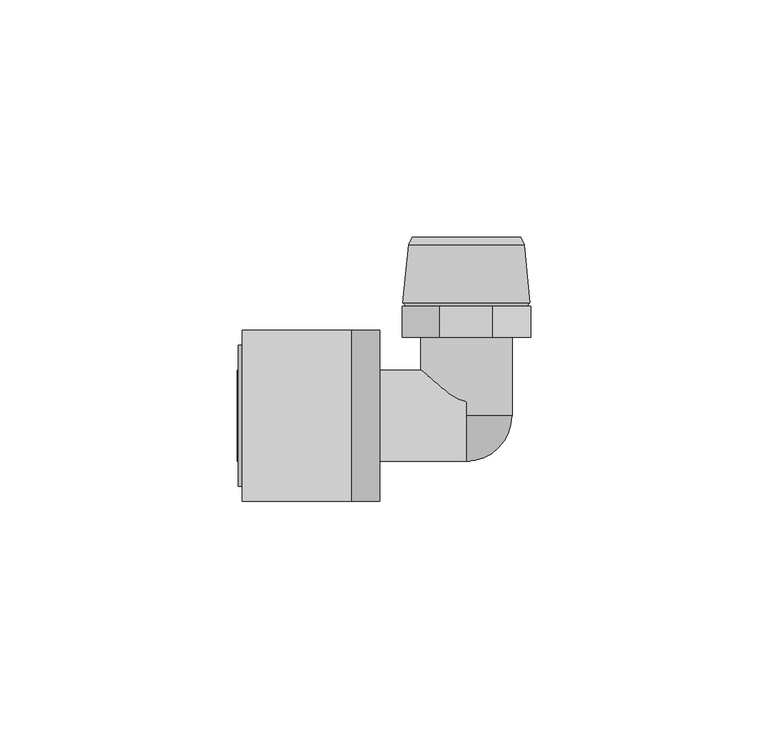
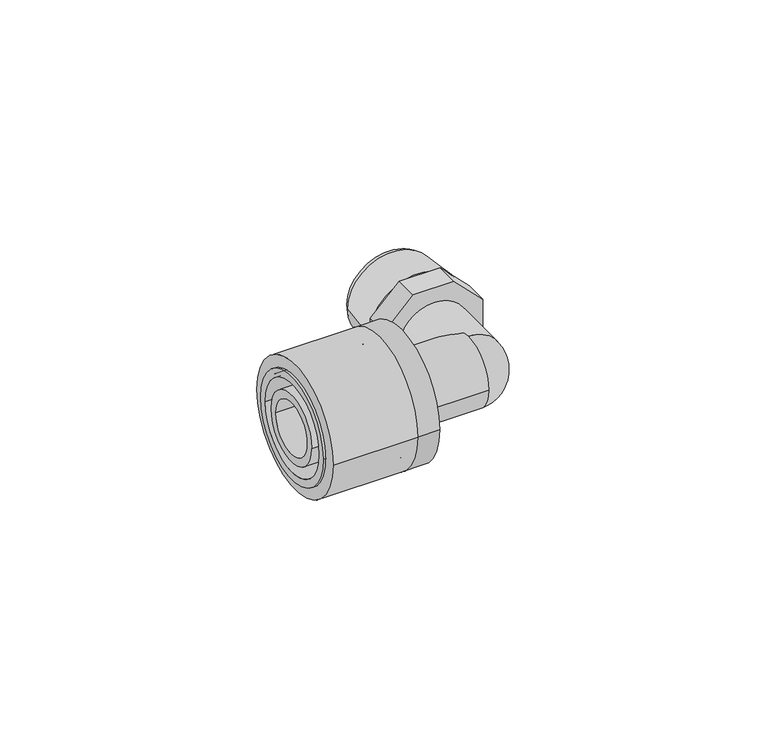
"""IFC4 building model written with IfcOpenShell, lengths in millimetres: pipe fitting geometry, FASTLOC_Elbow with male thread LX : FSL A internal CZ."""

from ifc_helpers import new_model, si_unit, point, frame, origin, origin_2d, place, context, project, spatial, polyline, circle_curve, ellipse_curve, trimmed, segment, composite_curve, outline, extrude, source, transform, mapped, element, save
from ifc_brep_helpers import plane_surface, cylinder_surface, revolved_surface, advanced_brep


def pipe_fitting_b873231b(model_context):
    return source(origin(), model_context, "Body", "SolidModel", [
        extrude(outline(composite_curve([segment(trimmed(circle_curve(origin_2d(), 18.0), [point((18.0, 0.0))], [point((-18.0, 0.0))], False, "CARTESIAN"), True, "CONTINUOUS"), segment(trimmed(circle_curve(origin_2d(), 18.0), [point((-18.0, 0.0))], [point((18.0, 0.0))], False, "CARTESIAN"), True, "CONTINUOUS")], self_intersect=False), holes=[composite_curve([segment(trimmed(circle_curve(origin_2d(), 13.5), [point((13.5, 0.0))], [point((-13.5, 0.0))], True, "CARTESIAN"), True, "CONTINUOUS"), segment(trimmed(circle_curve(origin_2d(), 13.5), [point((-13.5, 0.0))], [point((13.5, 0.0))], True, "CARTESIAN"), True, "CONTINUOUS")], self_intersect=False)]), frame((-47.2, 0.0, 0.0), z_axis=(1.0, 0.0, 0.0), x_axis=(0.0, 1.0, 0.0)), (0.0, 0.0, 1.0), 23.0),
        advanced_brep(
        [(-24.2, -18.0, 0.0), (-24.2, 18.0, 0.0), (-18.2, 18.0, 0.0), (-18.2, -18.0, 0.0), (-48.0, -14.85, 0.0), (-48.0, 14.85, 0.0), (-24.2, 14.85, 0.0), (-24.2, -14.85, 0.0), (-18.2, -12.65, 0.0), (-18.2, 12.65, 0.0), (-48.0, 12.65, 0.0), (-48.0, -12.65, 0.0)],
        [
            (0, 1, circle_curve(frame((-24.2, 0.0, 0.0), z_axis=(1.0, 0.0, 0.0), x_axis=(0.0, 1.0, 0.0)), 18.0)),
            (1, 2),
            (2, 3, circle_curve(frame((-18.2, 0.0, 0.0), z_axis=(-1.0, 0.0, 0.0), x_axis=(0.0, 1.0, 0.0)), 18.0)),
            (3, 0),
            (4, 5, circle_curve(frame((-48.0, 0.0, 0.0), z_axis=(1.0, 0.0, 0.0), x_axis=(0.0, 1.0, 0.0)), 14.85)),
            (5, 6),
            (6, 7, circle_curve(frame((-24.2, 0.0, 0.0), z_axis=(-1.0, 0.0, 0.0), x_axis=(0.0, 1.0, 0.0)), 14.85)),
            (7, 4),
            (8, 9, circle_curve(frame((-18.2, 0.0, 0.0), z_axis=(1.0, 0.0, 0.0), x_axis=(0.0, 1.0, 0.0)), 12.65)),
            (9, 10),
            (10, 11, circle_curve(frame((-48.0, 0.0, 0.0), z_axis=(-1.0, 0.0, 0.0), x_axis=(0.0, 1.0, 0.0)), 12.65)),
            (11, 8),
            (1, 0, circle_curve(frame((-24.2, 0.0, 0.0), z_axis=(1.0, 0.0, 0.0), x_axis=(0.0, -1.0, 0.0)), 18.0)),
            (3, 2, circle_curve(frame((-18.2, 0.0, 0.0), z_axis=(-1.0, 0.0, 0.0), x_axis=(0.0, -1.0, 0.0)), 18.0)),
            (6, 7, circle_curve(frame((-24.2, 0.0, 0.0), z_axis=(1.0, 0.0, 0.0), x_axis=(0.0, -1.0, 0.0)), 14.85)),
            (5, 4, circle_curve(frame((-48.0, 0.0, 0.0), z_axis=(1.0, 0.0, 0.0), x_axis=(0.0, -1.0, 0.0)), 14.85)),
            (10, 11, circle_curve(frame((-48.0, 0.0, 0.0), z_axis=(1.0, 0.0, 0.0), x_axis=(0.0, -1.0, 0.0)), 12.65)),
            (9, 8, circle_curve(frame((-18.2, 0.0, 0.0), z_axis=(1.0, 0.0, 0.0), x_axis=(0.0, -1.0, 0.0)), 12.65)),
        ],
        [
            cylinder_surface(frame((-18.2, 0.0, 0.0), z_axis=(-1.0, 0.0, 0.0), x_axis=(0.0, 1.0, 0.0)), 18.0),
            cylinder_surface(frame((-18.2, 0.0, 0.0), z_axis=(-1.0, 0.0, 0.0), x_axis=(0.0, 1.0, 0.0)), 14.85),
            revolved_surface(polyline([(-48.0, 12.65, 0.0), (-18.2, 12.65, 0.0)]), (-18.2, 0.0, 0.0), (-1.0, 0.0, 0.0)),
            cylinder_surface(frame((-18.2, 0.0, 0.0), z_axis=(-1.0, 0.0, 0.0), x_axis=(0.0, -1.0, 0.0)), 18.0),
            plane_surface(frame((-24.2, 0.0, 0.0), z_axis=(-1.0, 0.0, 0.0), x_axis=(0.0, -1.0, 0.0))),
            cylinder_surface(frame((-18.2, 0.0, 0.0), z_axis=(-1.0, 0.0, 0.0), x_axis=(0.0, -1.0, 0.0)), 14.85),
            plane_surface(frame((-48.0, 0.0, 0.0), z_axis=(-1.0, 0.0, 0.0), x_axis=(0.0, -1.0, 0.0))),
            revolved_surface(polyline([(-48.0, -12.65, 0.0), (-18.2, -12.65, 0.0)]), (-18.2, 0.0, 0.0), (-1.0, 0.0, 0.0)),
            plane_surface(frame((-18.2, 0.0, 0.0), z_axis=(1.0, 0.0, 0.0), x_axis=(0.0, -1.0, 0.0))),
        ],
        [
            (0, [[1, 2, 3, 4]]),
            (1, [[5, 6, 7, 8]]),
            (2, [[9, 10, 11, 12]]),
            (3, [[13, -4, 14, -2]]),
            (4, [[-13, -1], [15, -7]]),
            (5, [[16, -8, -15, -6]]),
            (6, [[-16, -5], [17, -11]]),
            (7, [[18, -12, -17, -10]]),
            (8, [[-14, -3], [-18, -9]]),
        ],
    ),
        advanced_brep(
        [(-24.2, 9.6, 0.0), (-24.2, -9.6, 0.0), (-48.2, -9.6, 0.0), (-48.2, 9.6, 0.0), (-21.4, 11.1, 0.0), (-21.4, -11.1, 0.0), (-24.2, -11.1, 0.0), (-24.2, 11.1, 0.0), (0.0, 9.6, 0.0), (0.0, -9.6, 0.0), (-21.4, -9.6, 0.0), (-21.4, 9.6, 0.0), (-48.2, 7.35, 0.0), (-48.2, -7.35, 0.0), (0.0, -7.35, 0.0), (0.0, 7.35, 0.0)],
        [
            (0, 1, circle_curve(frame((-24.2, 0.0, 0.0), z_axis=(-1.0, 0.0, 0.0), x_axis=(0.0, -1.0, 0.0)), 9.6)),
            (1, 2),
            (2, 3, circle_curve(frame((-48.2, 0.0, 0.0), z_axis=(1.0, 0.0, 0.0), x_axis=(0.0, -1.0, 0.0)), 9.6)),
            (3, 0),
            (4, 5, circle_curve(frame((-21.4, 0.0, 0.0), z_axis=(-1.0, 0.0, 0.0), x_axis=(0.0, -1.0, 0.0)), 11.1)),
            (5, 6),
            (6, 7, circle_curve(frame((-24.2, 0.0, 0.0), z_axis=(1.0, 0.0, 0.0), x_axis=(0.0, -1.0, 0.0)), 11.1)),
            (7, 4),
            (8, 9, circle_curve(frame((0.0, 0.0, 0.0), z_axis=(-1.0, 0.0, 0.0), x_axis=(0.0, -1.0, 0.0)), 9.6)),
            (9, 10),
            (10, 11, circle_curve(frame((-21.4, 0.0, 0.0), z_axis=(1.0, 0.0, 0.0), x_axis=(0.0, -1.0, 0.0)), 9.6)),
            (11, 8),
            (12, 13, circle_curve(frame((-48.2, 0.0, 0.0), z_axis=(-1.0, 0.0, 0.0), x_axis=(0.0, -1.0, 0.0)), 7.35)),
            (13, 14),
            (14, 15, circle_curve(frame((0.0, 0.0, 0.0), z_axis=(1.0, 0.0, 0.0), x_axis=(0.0, -1.0, 0.0)), 7.35)),
            (15, 12),
            (2, 3, circle_curve(frame((-48.2, 0.0, 0.0), z_axis=(-1.0, 0.0, 0.0), x_axis=(0.0, 1.0, 0.0)), 9.6)),
            (12, 13, circle_curve(frame((-48.2, 0.0, 0.0), z_axis=(1.0, 0.0, 0.0), x_axis=(0.0, 1.0, 0.0)), 7.35)),
            (1, 0, circle_curve(frame((-24.2, 0.0, 0.0), z_axis=(-1.0, 0.0, 0.0), x_axis=(0.0, 1.0, 0.0)), 9.6)),
            (6, 7, circle_curve(frame((-24.2, 0.0, 0.0), z_axis=(-1.0, 0.0, 0.0), x_axis=(0.0, 1.0, 0.0)), 11.1)),
            (5, 4, circle_curve(frame((-21.4, 0.0, 0.0), z_axis=(-1.0, 0.0, 0.0), x_axis=(0.0, 1.0, 0.0)), 11.1)),
            (10, 11, circle_curve(frame((-21.4, 0.0, 0.0), z_axis=(-1.0, 0.0, 0.0), x_axis=(0.0, 1.0, 0.0)), 9.6)),
            (9, 8, circle_curve(frame((0.0, 0.0, 0.0), z_axis=(-1.0, 0.0, 0.0), x_axis=(0.0, 1.0, 0.0)), 9.6)),
            (14, 15, circle_curve(frame((0.0, 0.0, 0.0), z_axis=(-1.0, 0.0, 0.0), x_axis=(0.0, 1.0, 0.0)), 7.35)),
        ],
        [
            cylinder_surface(frame((0.0, 0.0, 0.0), z_axis=(1.0, 0.0, 0.0), x_axis=(0.0, -1.0, 0.0)), 9.6),
            cylinder_surface(frame((0.0, 0.0, 0.0), z_axis=(1.0, 0.0, 0.0), x_axis=(0.0, -1.0, 0.0)), 11.1),
            revolved_surface(polyline([(0.0, -7.35, 0.0), (-48.2, -7.35, 0.0)]), (0.0, 0.0, 0.0), (1.0, 0.0, 0.0)),
            plane_surface(frame((-48.2, 0.0, 0.0), z_axis=(-1.0, 0.0, 0.0), x_axis=(0.0, 1.0, 0.0))),
            cylinder_surface(frame((0.0, 0.0, 0.0), z_axis=(1.0, 0.0, 0.0), x_axis=(0.0, 1.0, 0.0)), 9.6),
            plane_surface(frame((-24.2, 0.0, 0.0), z_axis=(-1.0, 0.0, 0.0), x_axis=(0.0, 1.0, 0.0))),
            cylinder_surface(frame((0.0, 0.0, 0.0), z_axis=(1.0, 0.0, 0.0), x_axis=(0.0, 1.0, 0.0)), 11.1),
            plane_surface(frame((-21.4, 0.0, 0.0), z_axis=(1.0, 0.0, 0.0), x_axis=(0.0, 1.0, 0.0))),
            plane_surface(frame((0.0, 0.0, 0.0), z_axis=(1.0, 0.0, 0.0), x_axis=(0.0, 1.0, 0.0))),
            revolved_surface(polyline([(0.0, 7.35, 0.0), (-48.2, 7.35, 0.0)]), (0.0, 0.0, 0.0), (1.0, 0.0, 0.0)),
        ],
        [
            (0, [[1, 2, 3, 4]]),
            (1, [[5, 6, 7, 8]]),
            (0, [[9, 10, 11, 12]]),
            (2, [[13, 14, 15, 16]]),
            (3, [[17, -3], [18, -13]]),
            (4, [[19, -4, -17, -2]]),
            (5, [[20, -7], [-19, -1]]),
            (6, [[21, -8, -20, -6]]),
            (7, [[-21, -5], [22, -11]]),
            (4, [[23, -12, -22, -10]]),
            (8, [[-23, -9], [24, -15]]),
            (9, [[-18, -16, -24, -14]]),
        ],
    ),
        advanced_brep(
        [(12.15, 36.0000007, 0.0), (-12.15, 36.0000007, 0.0), (-11.45, 37.5, 0.0), (11.45, 37.5, 0.0), (13.35, 23.7406902, 0.0), (-13.35, 23.7406902, 0.0), (12.7, 23.0, 0.0), (-12.7, 23.0, 0.0), (9.5, 24.1032803, 0.0), (-9.5, 24.1032803, 0.0), (-8.3967197, 23.0, 0.0), (8.3967197, 23.0, 0.0), (9.5, 37.5, 0.0), (-9.5, 37.5, 0.0)],
        [
            (0, 1, circle_curve(frame((0.0, 36.0000007, 0.0), z_axis=(0.0, 1.0, 0.0), x_axis=(-1.0, 0.0, 0.0)), 12.15)),
            (1, 2),
            (2, 3, circle_curve(frame((0.0, 37.5, 0.0), z_axis=(0.0, -1.0, 0.0), x_axis=(-1.0, 0.0, 0.0)), 11.45)),
            (3, 0),
            (4, 5, circle_curve(frame((0.0, 23.7406902, 0.0), z_axis=(0.0, 1.0, 0.0), x_axis=(-1.0, 0.0, 0.0)), 13.35)),
            (5, 1),
            (0, 4),
            (6, 7, circle_curve(frame((0.0, 23.0, 0.0), z_axis=(0.0, 1.0, 0.0), x_axis=(-1.0, 0.0, 0.0)), 12.7)),
            (7, 5),
            (4, 6),
            (8, 9, circle_curve(frame((0.0, 24.1032803, 0.0), z_axis=(0.0, 1.0, 0.0), x_axis=(-1.0, 0.0, 0.0)), 9.5)),
            (9, 10),
            (10, 11, circle_curve(frame((0.0, 23.0, 0.0), z_axis=(0.0, -1.0, 0.0), x_axis=(-1.0, 0.0, 0.0)), 8.3967197)),
            (11, 8),
            (12, 13, circle_curve(frame((0.0, 37.5, 0.0), z_axis=(0.0, 1.0, 0.0), x_axis=(-1.0, 0.0, 0.0)), 9.5)),
            (13, 9),
            (8, 12),
            (2, 3, circle_curve(frame((0.0, 37.5, 0.0), z_axis=(0.0, 1.0, 0.0), x_axis=(1.0, 0.0, 0.0)), 11.45)),
            (12, 13, circle_curve(frame((0.0, 37.5, 0.0), z_axis=(0.0, -1.0, 0.0), x_axis=(1.0, 0.0, 0.0)), 9.5)),
            (1, 0, circle_curve(frame((0.0, 36.0000007, 0.0), z_axis=(0.0, 1.0, 0.0), x_axis=(1.0, 0.0, 0.0)), 12.15)),
            (5, 4, circle_curve(frame((0.0, 23.7406902, 0.0), z_axis=(0.0, 1.0, 0.0), x_axis=(1.0, 0.0, 0.0)), 13.35)),
            (7, 6, circle_curve(frame((0.0, 23.0, 0.0), z_axis=(0.0, 1.0, 0.0), x_axis=(1.0, 0.0, 0.0)), 12.7)),
            (10, 11, circle_curve(frame((0.0, 23.0, 0.0), z_axis=(0.0, 1.0, 0.0), x_axis=(1.0, 0.0, 0.0)), 8.3967197)),
            (9, 8, circle_curve(frame((0.0, 24.1032803, 0.0), z_axis=(0.0, 1.0, 0.0), x_axis=(1.0, 0.0, 0.0)), 9.5)),
        ],
        [
            revolved_surface(polyline([(-11.45, 37.5, 0.0), (-12.15, 36.0000007, 0.0)]), (0.0, 16.5, 0.0), (0.0, -1.0, 0.0)),
            revolved_surface(polyline([(-12.15, 36.0000007, 0.0), (-13.35, 23.7406902, 0.0)]), (0.0, 16.5, 0.0), (0.0, -1.0, 0.0)),
            revolved_surface(polyline([(-13.35, 23.7406902, 0.0), (-12.7, 23.0, 0.0)]), (0.0, 16.5, 0.0), (0.0, -1.0, 0.0)),
            revolved_surface(polyline([(-8.3967197, 23.0, 0.0), (-9.5, 24.1032803, 0.0)]), (0.0, 16.5, 0.0), (0.0, -1.0, 0.0)),
            revolved_surface(polyline([(-9.5, 24.1032803, 0.0), (-9.5, 37.5, 0.0)]), (0.0, 16.5, 0.0), (0.0, -1.0, 0.0)),
            plane_surface(frame((0.0, 37.5, 0.0), z_axis=(0.0, 1.0, 0.0), x_axis=(1.0, 0.0, 0.0))),
            revolved_surface(polyline([(11.45, 37.5, 0.0), (12.15, 36.0000007, 0.0)]), (0.0, 16.5, 0.0), (0.0, -1.0, 0.0)),
            revolved_surface(polyline([(12.15, 36.0000007, 0.0), (13.35, 23.7406902, 0.0)]), (0.0, 16.5, 0.0), (0.0, -1.0, 0.0)),
            revolved_surface(polyline([(13.35, 23.7406902, 0.0), (12.7, 23.0, 0.0)]), (0.0, 16.5, 0.0), (0.0, -1.0, 0.0)),
            plane_surface(frame((0.0, 23.0, 0.0), z_axis=(0.0, -1.0, 0.0), x_axis=(1.0, 0.0, 0.0))),
            revolved_surface(polyline([(8.3967197, 23.0, 0.0), (9.5, 24.1032803, 0.0)]), (0.0, 16.5, 0.0), (0.0, -1.0, 0.0)),
            revolved_surface(polyline([(9.5, 24.1032803, 0.0), (9.5, 37.5, 0.0)]), (0.0, 16.5, 0.0), (0.0, -1.0, 0.0)),
        ],
        [
            (0, [[1, 2, 3, 4]]),
            (1, [[5, 6, -1, 7]]),
            (2, [[8, 9, -5, 10]]),
            (3, [[11, 12, 13, 14]]),
            (4, [[15, 16, -11, 17]]),
            (5, [[18, -3], [19, -15]]),
            (6, [[20, -4, -18, -2]]),
            (7, [[21, -7, -20, -6]]),
            (8, [[22, -10, -21, -9]]),
            (9, [[-22, -8], [23, -13]]),
            (10, [[24, -14, -23, -12]]),
            (11, [[-19, -17, -24, -16]]),
        ],
    ),
        advanced_brep(
        [(0.0, -9.6, 0.0), (0.0, 0.0, 9.6), (0.0, 0.0, 6.95), (0.0, -6.95, 0.0), (0.0, 0.0, -6.95), (0.0, 0.0, -9.6)],
        [
            (0, 1, circle_curve(frame((0.0, 0.0, 0.0), z_axis=(-1.0, 0.0, 0.0), x_axis=(0.0, 0.0, 1.0)), 9.6)),
            (1, 2),
            (2, 3, circle_curve(frame((0.0, 0.0, 0.0), z_axis=(1.0, 0.0, 0.0), x_axis=(0.0, 0.0, 1.0)), 6.95)),
            (3, 0),
            (3, 4, circle_curve(frame((0.0, 0.0, 0.0), z_axis=(1.0, 0.0, 0.0), x_axis=(0.0, 0.0, -1.0)), 6.95)),
            (4, 5),
            (5, 0, circle_curve(frame((0.0, 0.0, 0.0), z_axis=(-1.0, 0.0, 0.0), x_axis=(0.0, 0.0, -1.0)), 9.6)),
            (5, 1, circle_curve(frame((0.0, 0.0, 0.0), z_axis=(0.0, -1.0, 0.0), x_axis=(0.0, 0.0, 1.0)), 9.6)),
            (4, 2, circle_curve(frame((0.0, 0.0, 0.0), z_axis=(0.0, -1.0, 0.0), x_axis=(0.0, 0.0, 1.0)), 6.95)),
        ],
        [
            plane_surface(frame((0.0, 0.0, 0.0), z_axis=(-1.0, 0.0, 0.0), x_axis=(0.0, 0.0, 1.0))),
            plane_surface(frame((0.0, 0.0, 0.0), z_axis=(-1.0, 0.0, 0.0), x_axis=(0.0, 0.0, -1.0))),
            revolved_surface(trimmed(ellipse_curve(frame((0.0, 0.0, 0.0), z_axis=(-1.0, 0.0, 0.0), x_axis=(0.0, 0.0, 1.0)), 9.6, 9.6), [point((0.0, -9.6, 0.0))], [point((0.0, 0.0, 9.6))], True, "CARTESIAN"), (0.0, 0.0, 0.0), (0.0, 1.0, 0.0)),
            plane_surface(frame((0.0, 0.0, 0.0), z_axis=(0.0, 1.0, 0.0), x_axis=(0.0, 0.0, 1.0))),
            revolved_surface(trimmed(ellipse_curve(frame((0.0, 0.0, 0.0), z_axis=(1.0, 0.0, 0.0), x_axis=(0.0, 0.0, 1.0)), 6.95, 6.95), [point((0.0, 0.0, 6.95))], [point((0.0, -6.95, 0.0))], True, "CARTESIAN"), (0.0, 0.0, 0.0), (0.0, 1.0, 0.0)),
        ],
        [
            (0, [[1, 2, 3, 4]]),
            (1, [[5, 6, 7, -4]]),
            (2, [[8, -1, -7]]),
            (3, [[9, -2, -8, -6]]),
            (4, [[-3, -9, -5]]),
        ],
    ),
        extrude(outline(polyline([(-13.5, 5.5918831), (-5.5918831, 13.5), (5.5918831, 13.5), (13.5, 5.5918831), (13.5, -5.5918831), (5.5918831, -13.5), (-5.5918831, -13.5), (-13.5, -5.5918831), (-13.5, 5.5918831)])), frame((0.0, 16.5, 0.0), z_axis=(0.0, 1.0, 0.0), x_axis=(0.0, 0.0, 1.0)), (0.0, 0.0, 1.0), 6.5),
        extrude(outline(composite_curve([segment(trimmed(circle_curve(origin_2d(), 9.6), [point((0.0, -9.6))], [point((0.0, 9.6))], False, "CARTESIAN"), True, "CONTINUOUS"), segment(trimmed(circle_curve(origin_2d(), 9.6), [point((0.0, 9.6))], [point((0.0, -9.6))], False, "CARTESIAN"), True, "CONTINUOUS")], self_intersect=False), holes=[composite_curve([segment(trimmed(circle_curve(origin_2d(), 7.35), [point((0.0, -7.35))], [point((0.0, 7.35))], True, "CARTESIAN"), True, "CONTINUOUS"), segment(trimmed(circle_curve(origin_2d(), 7.35), [point((0.0, 7.35))], [point((0.0, -7.35))], True, "CARTESIAN"), True, "CONTINUOUS")], self_intersect=False)]), frame((0.0, 0.0, 0.0), z_axis=(0.0, 1.0, 0.0), x_axis=(0.0, 0.0, 1.0)), (0.0, 0.0, 1.0), 16.5),
    ])


if __name__ == "__main__":
    model = new_model("IFC4")
    model_context = context("Model", 3, world=origin())
    ifc_project = project(units=[si_unit("LENGTHUNIT", "METRE", prefix="MILLI")], contexts=[model_context])
    site = spatial("IfcSite", under=ifc_project)
    building = spatial("IfcBuilding", under=site)
    placement = place(None, origin())
    pipe_fitting_shape = pipe_fitting_b873231b(model_context)
    element("IfcPipeFitting", 1, ObjectType="FASTLOC_Elbow with male thread LX : FSL A internal CZ", at=placement, inside=building, context=model_context, shape_type="MappedRepresentation", body=[
        mapped(pipe_fitting_shape, transform((0.0, 0.0, 0.0), x_axis=(1.0, 0.0, 0.0), y_axis=(0.0, 1.0, 0.0), z_axis=(0.0, 0.0, 1.0))),
    ])
    save(model, "model.ifc")
